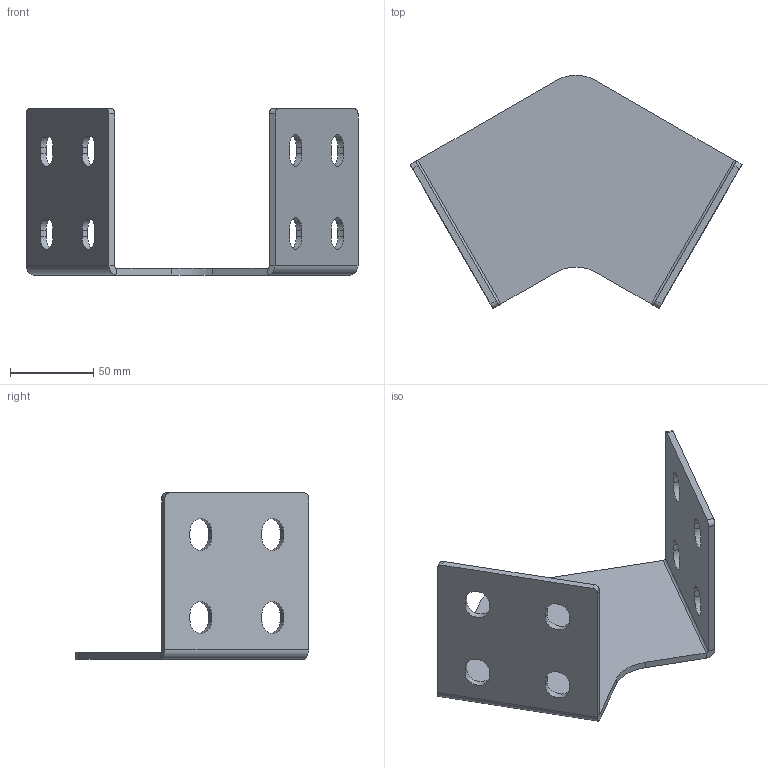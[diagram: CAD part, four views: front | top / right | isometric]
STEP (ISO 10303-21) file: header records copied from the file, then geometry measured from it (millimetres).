
FILE_DESCRIPTION (( 'STEP AP214' ), '1' );
FILE_NAME ('10010060.STEP', '2018-03-02T10:22:15', ( '' ), ( '' ), 'SwSTEP 2.0', 'SolidWorks 2014', '' );
FILE_SCHEMA (( 'AUTOMOTIVE_DESIGN' ));
Length unit declared in the file: millimetre
Products named in the file (2): 10010060
Bounding box: 200 x 140.47 x 100 mm (x, y, z)
Volume: 137274.5 mm3; surface area: 74056.7 mm2
Topology: 1 solids, 1 shells, 62 faces, 164 edges, 104 vertices
Faces by surface type: plane 36, cylinder 26
Entity records: 1993 total; most frequent: DIRECTION 344, CARTESIAN_POINT 332, ORIENTED_EDGE 328, EDGE_CURVE 164, AXIS2_PLACEMENT_3D 116, LINE 112, VECTOR 112, VERTEX_POINT 104
